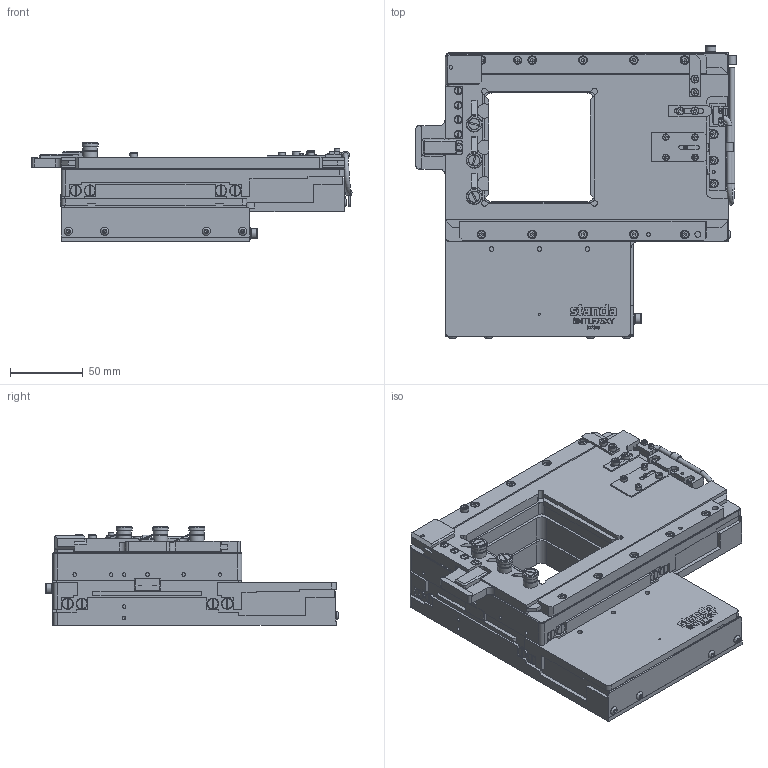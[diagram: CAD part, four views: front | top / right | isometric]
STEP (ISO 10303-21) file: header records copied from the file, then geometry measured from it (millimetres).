
FILE_DESCRIPTION(/* description */ (''),/* implementation_level */ '2;1');
FILE_NAME(/* name */ 'U:\KONSTRUKTORIAI\DOKUMENTACIJA\8\8MTLF75\STEP\8MTLF75XY + 8AMTLF75 SB.stp',/* time_stamp */ '2021-09-07T08:29:13+03:00',/* author */ ('dsgn32'),/* organization */ (''),/* preprocessor_version */ 'ST-DEVELOPER v15.2',/* originating_system */ 'Autodesk Inventor 2014',/* authorisation */ '');
FILE_SCHEMA (('AUTOMOTIVE_DESIGN { 1 0 10303 214 3 1 1 }'));
Products named in the file (1): 8MTLF75XY + 8AMTLF75 SB
Bounding box: 220.29 x 201.5 x 68.05 mm (x, y, z)
Volume: 1177699.4 mm3; surface area: 182171.9 mm2
Topology: 1 solids, 58 shells, 2431 faces, 6204 edges, 4094 vertices
Faces by surface type: plane 1492, cylinder 587, cone 183, bspline 96, torus 73
Full cylindrical faces by diameter (mm): 1.2 x2, 1.5 x16, 1.567 x2, 2 x3, 2.013 x20, 2.2 x2, 2.459 x47, 2.5 x24, 2.9 x8, 3 x29, 3.1 x2, 3.242 x10, 3.3 x2, 3.4 x25, 3.5 x2, 3.7 x2, 3.8 x2, 4 x14, 4.3 x2, 4.5 x4, 5 x2, 5.1 x2, 5.3 x1, 5.4 x3, 5.5 x23, 5.7 x7, 6 x19, 6.1 x3, 7 x2, 7.7 x16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
Entity records: 72150 total; most frequent: CARTESIAN_POINT 14979, DIRECTION 10965, ORIENTED_EDGE 10856, EDGE_CURVE 5422, AXIS2_PLACEMENT_3D 3838, VERTEX_POINT 3810, EDGE_LOOP 3298, LINE 3289
